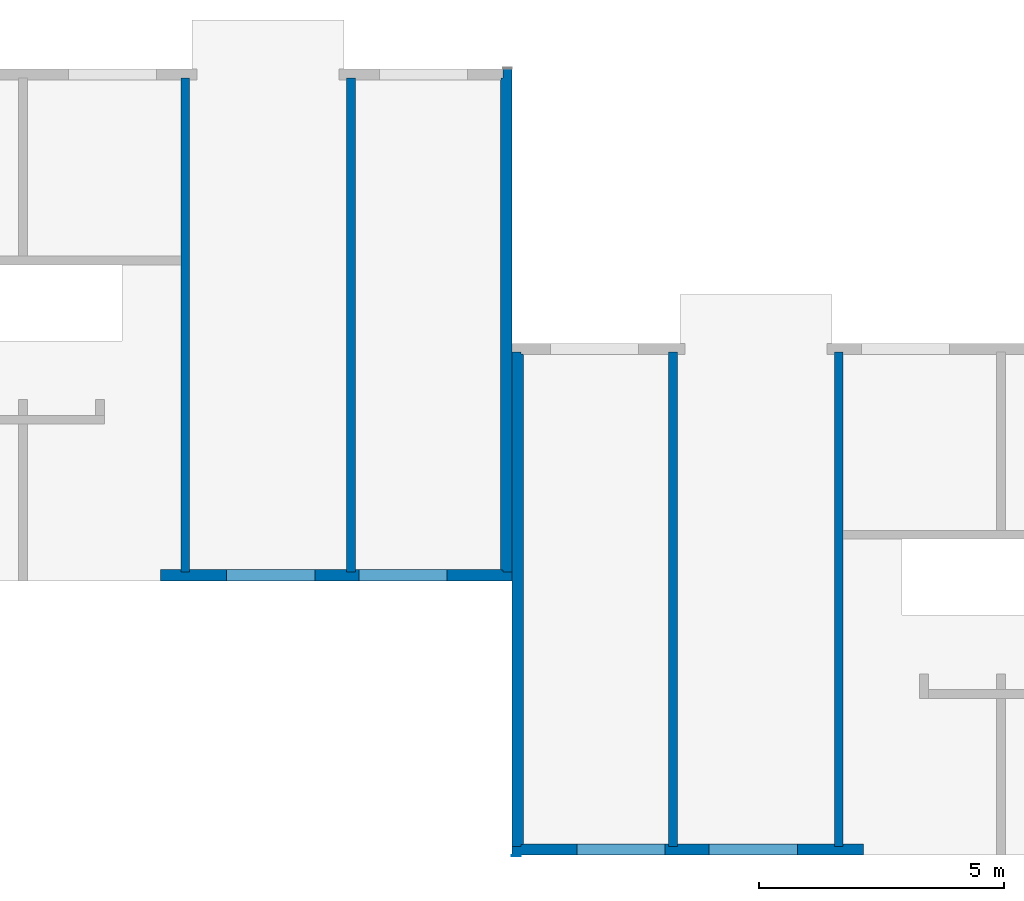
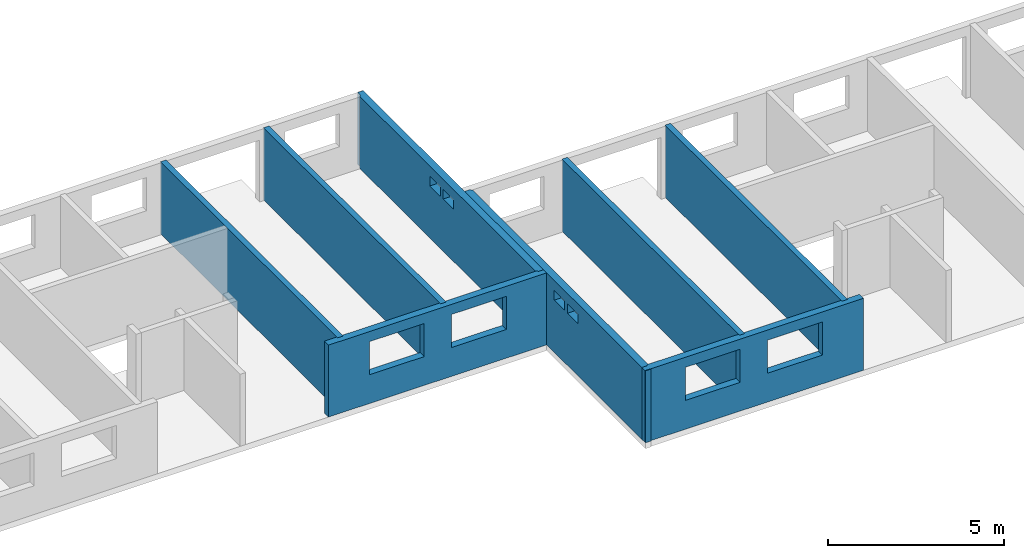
# One storey, part 7 of 9: 9 walls, 8 openings.
"""IFC2X3 building model written with IfcOpenShell, lengths in millimetres."""

from ifc_helpers import new_model, entity, si_unit, converted_unit, frame, frame_2d, origin, origin_with_axes, place, context, subcontext, project, spatial, polyline, rectangle, outline, extrude, material, layer, layer_set, layer_usage, element, save


model = new_model("IFC2X3")

# Units and contexts
model_context = context("Model", 3, precision=1e-05, world=origin())
plan_context = context("Plan", 3, precision=1e-05, world=origin())
body_context = subcontext(model_context, "Body", "Model", "MODEL_VIEW")
ifc_project = project(units=[si_unit("LENGTHUNIT", "METRE", prefix="MILLI"), converted_unit("PLANEANGLEUNIT", "DEGREE", entity("IfcPlaneAngleMeasure", 0.0174532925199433), si_unit("PLANEANGLEUNIT", "RADIAN"), dimensions=[0, 0, 0, 0, 0, 0, 0]), si_unit("AREAUNIT", "SQUARE_METRE"), si_unit("VOLUMEUNIT", "CUBIC_METRE")], contexts=[model_context, plan_context])

# Building, storey
building_placement = place(None, origin())
building = spatial("IfcBuilding", under=ifc_project, at=building_placement, Name="Bâtiment", CompositionType="ELEMENT")
storey_placement = place(building_placement, frame((0.0, 0.0, 5400.0), z_axis=(0.0, 0.0, 1.0), x_axis=(1.0, 0.0, 0.0)))
storey = spatial("IfcBuildingStorey", under=building, at=storey_placement, Name="r+2", CompositionType="ELEMENT", Elevation=5400.0)

# Wall, openings
ifc_material_1 = material(Name="moellons")
ifc_layer_1 = layer(ifc_material_1, 180.0)
ifc_material_2 = material(Name="briquettes")
ifc_layer_2 = layer(ifc_material_2, 40.0)
ifc_material_3 = material(Name="enduit platre")
ifc_layer_3 = layer(ifc_material_3, 10.0)
ifc_layer_set_1 = layer_set([ifc_layer_1, ifc_layer_2, ifc_layer_3])
ifc_layer_usage_1 = layer_usage(ifc_layer_set_1, "AXIS2", "POSITIVE", 0.0)
wall_1_placement = place(storey_placement, frame((39699.99999999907, 200.0775509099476, 0.0), z_axis=(0.0, 0.0, 1.0), x_axis=(0.0, 1.0, 0.0)))
wall_1 = element("IfcWallStandardCase", 1, at=wall_1_placement, inside=storey, material=ifc_layer_usage_1, context=body_context, shape_type="SweptSolid", body=[
    extrude(outline(polyline([(0.0, 0.0), (10270.00021457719, 0.0), (10270.00021457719, 180.0), (10090.00021457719, 180.0), (10090.00021457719, 220.0), (10050.00021457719, 220.0), (10050.00021457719, 230.0), (50.0, 230.0), (50.0, 220.0), (40.0, 220.0), (40.0, 180.0), (0.0, 180.0), (0.0, 0.0)])), origin_with_axes(), (0.0, 0.0, 1.0), 2500.0),
])
opening_1_placement = place(wall_1_placement, frame((5470.000214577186, 0.0, 1810.0), z_axis=(0.0, 1.0, 0.0), x_axis=(0.0, 0.0, 1.0)))
element("IfcOpeningElement", 2, at=opening_1_placement, cuts=wall_1, Name="Baie de fenêtre", ObjectType="Opening", context=body_context, shape_type="SweptSolid", body=[
    extrude(rectangle(XDim=340.0, YDim=600.0, at=frame_2d((170.0, 300.0), x_axis=(1.0, 0.0))), origin_with_axes(), (0.0, 0.0, 1.0), 230.0),
])
opening_2_placement = place(wall_1_placement, frame((4720.000214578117, 0.0, 1810.0), z_axis=(0.0, 1.0, 0.0), x_axis=(0.0, 0.0, 1.0)))
element("IfcOpeningElement", 3, at=opening_2_placement, cuts=wall_1, Name="Baie de fenêtre", ObjectType="Opening", context=body_context, shape_type="SweptSolid", body=[
    extrude(rectangle(XDim=340.0, YDim=600.0, at=frame_2d((170.0, 300.0), x_axis=(1.0, 0.0))), origin_with_axes(), (0.0, 0.0, 1.0), 230.0),
])

# Walls
ifc_material_4 = material(Name="moellons")
ifc_layer_4 = layer(ifc_material_4, 180.0)
ifc_layer_set_2 = layer_set([ifc_layer_4])
ifc_layer_usage_2 = layer_usage(ifc_layer_set_2, "AXIS2", "POSITIVE", 0.0)
wall_2_placement = place(storey_placement, frame((33119.99999999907, 200.077550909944, 0.0), z_axis=(0.0, 0.0, 1.0), x_axis=(0.0, 1.0, 0.0)))
element("IfcWallStandardCase", 4, at=wall_2_placement, inside=storey, material=ifc_layer_usage_2, context=body_context, shape_type="SweptSolid", body=[
    extrude(rectangle(XDim=10090.00021457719, YDim=180.0, at=frame_2d((5045.000107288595, 90.0), x_axis=(1.0, 0.0))), origin_with_axes(), (0.0, 0.0, 1.0), 2500.0),
])
ifc_material_5 = material(Name="moellons")
ifc_layer_5 = layer(ifc_material_5, 180.0)
ifc_layer_set_3 = layer_set([ifc_layer_5])
ifc_layer_usage_3 = layer_usage(ifc_layer_set_3, "AXIS2", "POSITIVE", 0.0)
wall_3_placement = place(storey_placement, frame((36499.99999999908, 200.0775509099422, 0.0), z_axis=(0.0, 0.0, 1.0), x_axis=(0.0, 1.0, 0.0)))
element("IfcWallStandardCase", 5, at=wall_3_placement, inside=storey, material=ifc_layer_usage_3, context=body_context, shape_type="SweptSolid", body=[
    extrude(rectangle(XDim=10090.00021457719, YDim=180.0, at=frame_2d((5045.000107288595, 90.0), x_axis=(1.0, 0.0))), origin_with_axes(), (0.0, 0.0, 1.0), 2500.0),
])
ifc_material_6 = material(Name="moellons")
ifc_layer_6 = layer(ifc_material_6, 20.0775509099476)
ifc_layer_set_4 = layer_set([ifc_layer_6])
ifc_layer_usage_4 = layer_usage(ifc_layer_set_4, "AXIS2", "POSITIVE", 0.0)
wall_4_placement = place(storey_placement, frame((39699.99999999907, -5579.922449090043, 0.0), z_axis=(0.0, 0.0, 1.0), x_axis=(1.0, 0.0, 0.0)))
element("IfcWallStandardCase", 6, at=wall_4_placement, inside=storey, material=ifc_layer_usage_4, context=body_context, shape_type="SweptSolid", body=[
    extrude(rectangle(XDim=180.0, YDim=20.0775509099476, at=frame_2d((90.0, 10.0387754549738), x_axis=(1.0, 0.0))), frame((0.0, -20.0775509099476, 0.0), z_axis=(0.0, 0.0, 1.0), x_axis=(1.0, 0.0, 0.0)), (0.0, 0.0, 1.0), 2500.0),
])
ifc_material_7 = material(Name="moellons")
ifc_layer_7 = layer(ifc_material_7, 180.0)
ifc_layer_set_5 = layer_set([ifc_layer_7])
ifc_layer_usage_5 = layer_usage(ifc_layer_set_5, "AXIS2", "POSITIVE", 0.0)
wall_5_placement = place(storey_placement, frame((43079.99999999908, -5399.922449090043, 0.0), z_axis=(0.0, 0.0, 1.0), x_axis=(0.0, 1.0, 0.0)))
element("IfcWallStandardCase", 7, at=wall_5_placement, inside=storey, material=ifc_layer_usage_5, context=body_context, shape_type="SweptSolid", body=[
    extrude(rectangle(XDim=10090.00021457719, YDim=180.0, at=frame_2d((5045.000107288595, 90.0), x_axis=(1.0, 0.0))), origin_with_axes(), (0.0, 0.0, 1.0), 2500.0),
])
ifc_material_8 = material(Name="moellons")
ifc_layer_8 = layer(ifc_material_8, 180.0)
ifc_layer_set_6 = layer_set([ifc_layer_8])
ifc_layer_usage_6 = layer_usage(ifc_layer_set_6, "AXIS2", "POSITIVE", 0.0)
wall_6_placement = place(storey_placement, frame((46459.99999999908, -5399.922449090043, 0.0), z_axis=(0.0, 0.0, 1.0), x_axis=(0.0, 1.0, 0.0)))
element("IfcWallStandardCase", 8, at=wall_6_placement, inside=storey, material=ifc_layer_usage_6, context=body_context, shape_type="SweptSolid", body=[
    extrude(rectangle(XDim=10090.00021457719, YDim=180.0, at=frame_2d((5045.000107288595, 90.0), x_axis=(1.0, 0.0))), origin_with_axes(), (0.0, 0.0, 1.0), 2500.0),
])

# Wall, openings
ifc_material_9 = material(Name="moellons")
ifc_layer_9 = layer(ifc_material_9, 180.0)
ifc_material_10 = material(Name="briquettes")
ifc_layer_10 = layer(ifc_material_10, 40.0)
ifc_material_11 = material(Name="enduit platre")
ifc_layer_11 = layer(ifc_material_11, 10.0)
ifc_layer_set_7 = layer_set([ifc_layer_9, ifc_layer_10, ifc_layer_11])
ifc_layer_usage_7 = layer_usage(ifc_layer_set_7, "AXIS2", "POSITIVE", 0.0)
wall_7_placement = place(storey_placement, frame((39699.99999999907, 4690.077765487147, 0.0), z_axis=(0.0, 0.0, 1.0), x_axis=(0.0, -1.0, 0.0)))
wall_7 = element("IfcWallStandardCase", 9, at=wall_7_placement, inside=storey, material=ifc_layer_usage_7, context=body_context, shape_type="SweptSolid", body=[
    extrude(outline(polyline([(0.0, 0.0), (10090.00021457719, 0.0), (10090.00021457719, 180.0), (10050.00021457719, 180.0), (10050.00021457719, 220.0), (10040.00021457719, 220.0), (10040.00021457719, 230.0), (50.0, 230.0), (50.0, 220.0), (40.0, 220.0), (40.0, 180.0), (0.0, 180.0), (0.0, 0.0)])), origin_with_axes(), (0.0, 0.0, 1.0), 2500.0),
])
opening_3_placement = place(wall_7_placement, frame((5845.00021457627, 0.0, 1810.0), z_axis=(0.0, 1.0, 0.0), x_axis=(0.0, 0.0, 1.0)))
element("IfcOpeningElement", 10, at=opening_3_placement, cuts=wall_7, Name="Baie de fenêtre", ObjectType="Opening", context=body_context, shape_type="SweptSolid", body=[
    extrude(rectangle(XDim=340.0, YDim=600.0, at=frame_2d((170.0, 300.0), x_axis=(1.0, 0.0))), origin_with_axes(), (0.0, 0.0, 1.0), 230.0),
])
opening_4_placement = place(wall_7_placement, frame((5093.000286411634, 0.0, 1810.0), z_axis=(0.0, 1.0, 0.0), x_axis=(0.0, 0.0, 1.0)))
element("IfcOpeningElement", 11, at=opening_4_placement, cuts=wall_7, Name="Baie de fenêtre", ObjectType="Opening", context=body_context, shape_type="SweptSolid", body=[
    extrude(rectangle(XDim=340.0, YDim=600.0, at=frame_2d((170.0, 300.0), x_axis=(1.0, 0.0))), origin_with_axes(), (0.0, 0.0, 1.0), 230.0),
])

ifc_material_12 = material(Name="moellons")
ifc_layer_12 = layer(ifc_material_12, 180.0)
ifc_material_13 = material(Name="briquettes")
ifc_layer_13 = layer(ifc_material_13, 40.0)
ifc_material_14 = material(Name="enduit platre")
ifc_layer_14 = layer(ifc_material_14, 10.0)
ifc_layer_set_8 = layer_set([ifc_layer_12, ifc_layer_13, ifc_layer_14])
ifc_layer_usage_8 = layer_usage(ifc_layer_set_8, "AXIS2", "POSITIVE", 0.0)
wall_8_placement = place(storey_placement, frame((32524.99999999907, 20.0775509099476, 0.0), z_axis=(0.0, 0.0, 1.0), x_axis=(1.0, 0.0, 0.0)))
wall_8 = element("IfcWallStandardCase", 12, at=wall_8_placement, inside=storey, material=ifc_layer_usage_8, context=body_context, shape_type="SweptSolid", body=[
    extrude(outline(polyline([(0.0, 0.0), (7174.999999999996, 0.0), (7174.999999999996, 180.0), (6994.999999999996, 180.0), (6994.999999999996, 220.0), (6954.999999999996, 220.0), (6954.999999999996, 230.0), (3975.000000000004, 230.0), (3975.000000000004, 180.0), (3795.000000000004, 180.0), (3795.000000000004, 230.0), (594.9999999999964, 230.0), (594.9999999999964, 180.0), (414.9999999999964, 180.0), (414.9999999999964, 230.0), (0.0, 230.0), (0.0, 0.0)])), origin_with_axes(), (0.0, 0.0, 1.0), 2500.0),
])
opening_5_placement = place(wall_8_placement, frame((1349.999999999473, 0.0, 1000.0), z_axis=(0.0, 1.0, 0.0), x_axis=(0.0, 0.0, 1.0)))
element("IfcOpeningElement", 13, at=opening_5_placement, cuts=wall_8, Name="Baie de fenêtre", ObjectType="Opening", context=body_context, shape_type="SweptSolid", body=[
    extrude(rectangle(XDim=1150.0, YDim=1800.0, at=frame_2d((575.0, 900.0), x_axis=(1.0, 0.0))), origin_with_axes(), (0.0, 0.0, 1.0), 230.0),
])
opening_6_placement = place(wall_8_placement, frame((4049.999999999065, 0.0, 1000.0), z_axis=(0.0, 1.0, 0.0), x_axis=(0.0, 0.0, 1.0)))
element("IfcOpeningElement", 14, at=opening_6_placement, cuts=wall_8, Name="Baie de fenêtre", ObjectType="Opening", context=body_context, shape_type="SweptSolid", body=[
    extrude(rectangle(XDim=1150.0, YDim=1800.0, at=frame_2d((575.0, 900.0), x_axis=(1.0, 0.0))), origin_with_axes(), (0.0, 0.0, 1.0), 230.0),
])

ifc_material_15 = material(Name="moellons")
ifc_layer_15 = layer(ifc_material_15, 180.0)
ifc_material_16 = material(Name="briquettes")
ifc_layer_16 = layer(ifc_material_16, 40.0)
ifc_material_17 = material(Name="enduit platre")
ifc_layer_17 = layer(ifc_material_17, 10.0)
ifc_layer_set_9 = layer_set([ifc_layer_15, ifc_layer_16, ifc_layer_17])
ifc_layer_usage_9 = layer_usage(ifc_layer_set_9, "AXIS2", "POSITIVE", 0.0)
wall_9_placement = place(storey_placement, frame((39699.99999999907, -5579.922449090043, -9.094947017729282e-13), z_axis=(0.0, 0.0, 1.0), x_axis=(1.0, 0.0, 0.0)))
wall_9 = element("IfcWallStandardCase", 15, at=wall_9_placement, inside=storey, material=ifc_layer_usage_9, context=body_context, shape_type="SweptSolid", body=[
    extrude(outline(polyline([(6760.000000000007, 230.0), (6760.000000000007, 180.0), (6580.000000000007, 180.0), (6580.000000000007, 230.0), (3380.000000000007, 230.0), (3380.000000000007, 180.0), (3200.000000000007, 180.0), (3200.000000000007, 230.0), (220.0, 230.0), (220.0, 220.0), (180.0, 220.0), (180.0, 180.0), (0.0, 180.0), (0.0, 0.0), (7175.000000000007, 0.0), (7175.000000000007, 230.0), (6760.000000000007, 230.0)])), origin_with_axes(), (0.0, 0.0, 1.0), 2500.000000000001),
])
opening_7_placement = place(wall_9_placement, frame((4024.999999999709, 0.0, 1000.000000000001), z_axis=(0.0, 1.0, 0.0), x_axis=(0.0, 0.0, 1.0)))
element("IfcOpeningElement", 16, at=opening_7_placement, cuts=wall_9, Name="Baie de fenêtre", ObjectType="Opening", context=body_context, shape_type="SweptSolid", body=[
    extrude(rectangle(XDim=1150.0, YDim=1800.0, at=frame_2d((575.0, 900.0), x_axis=(1.0, 0.0))), origin_with_axes(), (0.0, 0.0, 1.0), 230.0),
])
opening_8_placement = place(wall_9_placement, frame((1324.999999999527, 0.0, 1000.000000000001), z_axis=(0.0, 1.0, 0.0), x_axis=(0.0, 0.0, 1.0)))
element("IfcOpeningElement", 17, at=opening_8_placement, cuts=wall_9, Name="Baie de fenêtre", ObjectType="Opening", context=body_context, shape_type="SweptSolid", body=[
    extrude(rectangle(XDim=1150.0, YDim=1800.0, at=frame_2d((575.0, 900.0), x_axis=(1.0, 0.0))), origin_with_axes(), (0.0, 0.0, 1.0), 230.0),
])

save(model, "model.ifc")
